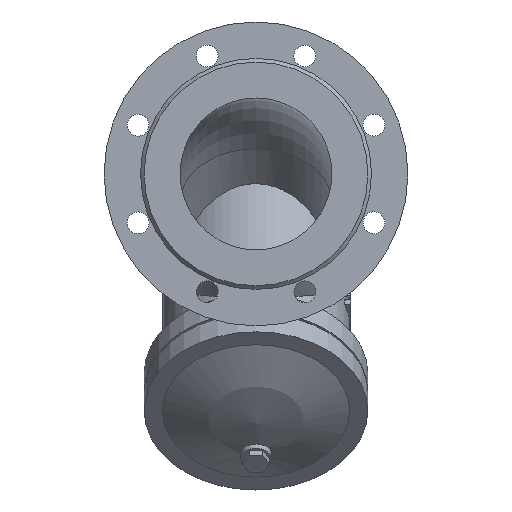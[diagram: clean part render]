
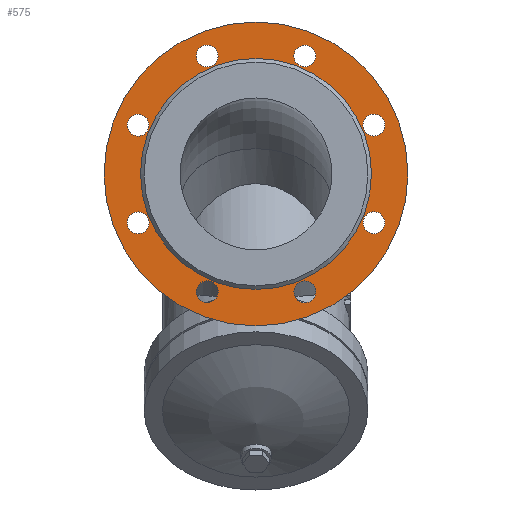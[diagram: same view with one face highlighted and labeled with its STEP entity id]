
A CAD part, front view. The second image highlights one B-rep face of the part: STEP entity #575.
In plain terms, the highlighted planar face has unit normal (0, -1, 0).
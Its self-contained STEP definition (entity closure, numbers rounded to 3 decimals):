
#575=ADVANCED_FACE('',(#1315,#1317,#1319,#1321,#1323,#1325,#1327,#1329,#1331,#1333),
#1335,.T.);
#1315=FACE_BOUND('',#1316,.T.);
#1316=EDGE_LOOP('',(#1788));
#1317=FACE_BOUND('',#1318,.T.);
#1318=EDGE_LOOP('',(#1789));
#1319=FACE_BOUND('',#1320,.T.);
#1320=EDGE_LOOP('',(#1790));
#1321=FACE_BOUND('',#1322,.T.);
#1322=EDGE_LOOP('',(#1791));
#1323=FACE_BOUND('',#1324,.T.);
#1324=EDGE_LOOP('',(#1792));
#1325=FACE_BOUND('',#1326,.T.);
#1326=EDGE_LOOP('',(#1793));
#1327=FACE_BOUND('',#1328,.T.);
#1328=EDGE_LOOP('',(#1794));
#1329=FACE_BOUND('',#1330,.T.);
#1330=EDGE_LOOP('',(#1795));
#1331=FACE_BOUND('',#1332,.T.);
#1332=EDGE_LOOP('',(#1796));
#1333=FACE_BOUND('',#1334,.T.);
#1334=EDGE_LOOP('',(#1797));
#1335=PLANE('',#1336);
#1336=AXIS2_PLACEMENT_3D('',#1337,#1338,#1339);
#1337=CARTESIAN_POINT('',(0.,-197.,0.));
#1338=DIRECTION('',(0.,-1.,0.));
#1339=DIRECTION('',(0.,0.,1.));
#1788=ORIENTED_EDGE('',*,*,#1980,.F.);
#1789=ORIENTED_EDGE('',*,*,#1988,.T.);
#1790=ORIENTED_EDGE('',*,*,#1987,.T.);
#1791=ORIENTED_EDGE('',*,*,#1986,.T.);
#1792=ORIENTED_EDGE('',*,*,#1985,.T.);
#1793=ORIENTED_EDGE('',*,*,#1984,.T.);
#1794=ORIENTED_EDGE('',*,*,#1983,.T.);
#1795=ORIENTED_EDGE('',*,*,#1982,.T.);
#1796=ORIENTED_EDGE('',*,*,#1999,.T.);
#1797=ORIENTED_EDGE('',*,*,#1981,.T.);
#1980=EDGE_CURVE('',#2213,#2213,#2214,.T.);
#1981=EDGE_CURVE('',#2215,#2215,#2216,.F.);
#1982=EDGE_CURVE('',#2217,#2217,#2218,.F.);
#1983=EDGE_CURVE('',#2219,#2219,#2220,.F.);
#1984=EDGE_CURVE('',#2221,#2221,#2222,.F.);
#1985=EDGE_CURVE('',#2223,#2223,#2224,.F.);
#1986=EDGE_CURVE('',#2225,#2225,#2226,.F.);
#1987=EDGE_CURVE('',#2227,#2227,#2228,.F.);
#1988=EDGE_CURVE('',#2229,#2229,#2230,.F.);
#1999=EDGE_CURVE('',#2251,#2251,#2252,.T.);
#2213=VERTEX_POINT('',#3546);
#2214=CIRCLE('',#3547,125.);
#2215=VERTEX_POINT('',#3551);
#2216=CIRCLE('',#3552,9.);
#2217=VERTEX_POINT('',#3556);
#2218=CIRCLE('',#3557,9.);
#2219=VERTEX_POINT('',#3561);
#2220=CIRCLE('',#3562,9.);
#2221=VERTEX_POINT('',#3566);
#2222=CIRCLE('',#3567,9.);
#2223=VERTEX_POINT('',#3571);
#2224=CIRCLE('',#3572,9.);
#2225=VERTEX_POINT('',#3576);
#2226=CIRCLE('',#3577,9.);
#2227=VERTEX_POINT('',#3581);
#2228=CIRCLE('',#3582,9.);
#2229=VERTEX_POINT('',#3586);
#2230=CIRCLE('',#3587,9.);
#2251=VERTEX_POINT('',#3641);
#2252=CIRCLE('',#3642,95.);
#3546=CARTESIAN_POINT('',(0.,-197.,125.));
#3547=AXIS2_PLACEMENT_3D('',#3548,#3549,#3550);
#3548=CARTESIAN_POINT('',(0.,-197.,0.));
#3549=DIRECTION('',(0.,1.,0.));
#3550=DIRECTION('',(0.,0.,1.));
#3551=CARTESIAN_POINT('',(-31.182,-197.,97.007));
#3552=AXIS2_PLACEMENT_3D('',#3553,#3554,#3555);
#3553=CARTESIAN_POINT('',(-40.182,-197.,97.007));
#3554=DIRECTION('',(0.,-1.,0.));
#3555=DIRECTION('',(1.,0.,0.));
#3556=CARTESIAN_POINT('',(-90.643,-197.,46.546));
#3557=AXIS2_PLACEMENT_3D('',#3558,#3559,#3560);
#3558=CARTESIAN_POINT('',(-97.007,-197.,40.182));
#3559=DIRECTION('',(0.,-1.,0.));
#3560=DIRECTION('',(0.707,0.,0.707));
#3561=CARTESIAN_POINT('',(-97.007,-197.,-31.182));
#3562=AXIS2_PLACEMENT_3D('',#3563,#3564,#3565);
#3563=CARTESIAN_POINT('',(-97.007,-197.,-40.182));
#3564=DIRECTION('',(0.,-1.,0.));
#3565=DIRECTION('',(0.,0.,1.));
#3566=CARTESIAN_POINT('',(-46.546,-197.,-90.643));
#3567=AXIS2_PLACEMENT_3D('',#3568,#3569,#3570);
#3568=CARTESIAN_POINT('',(-40.182,-197.,-97.007));
#3569=DIRECTION('',(0.,-1.,0.));
#3570=DIRECTION('',(-0.707,0.,0.707));
#3571=CARTESIAN_POINT('',(31.182,-197.,-97.007));
#3572=AXIS2_PLACEMENT_3D('',#3573,#3574,#3575);
#3573=CARTESIAN_POINT('',(40.182,-197.,-97.007));
#3574=DIRECTION('',(0.,-1.,0.));
#3575=DIRECTION('',(-1.,0.,0.));
#3576=CARTESIAN_POINT('',(90.643,-197.,-46.546));
#3577=AXIS2_PLACEMENT_3D('',#3578,#3579,#3580);
#3578=CARTESIAN_POINT('',(97.007,-197.,-40.182));
#3579=DIRECTION('',(0.,-1.,0.));
#3580=DIRECTION('',(-0.707,0.,-0.707));
#3581=CARTESIAN_POINT('',(97.007,-197.,31.182));
#3582=AXIS2_PLACEMENT_3D('',#3583,#3584,#3585);
#3583=CARTESIAN_POINT('',(97.007,-197.,40.182));
#3584=DIRECTION('',(0.,-1.,0.));
#3585=DIRECTION('',(0.,0.,-1.));
#3586=CARTESIAN_POINT('',(46.546,-197.,90.643));
#3587=AXIS2_PLACEMENT_3D('',#3588,#3589,#3590);
#3588=CARTESIAN_POINT('',(40.182,-197.,97.007));
#3589=DIRECTION('',(0.,-1.,0.));
#3590=DIRECTION('',(0.707,0.,-0.707));
#3641=CARTESIAN_POINT('',(0.,-197.,95.));
#3642=AXIS2_PLACEMENT_3D('',#3643,#3644,#3645);
#3643=CARTESIAN_POINT('',(0.,-197.,0.));
#3644=DIRECTION('',(0.,1.,0.));
#3645=DIRECTION('',(0.,0.,1.));
